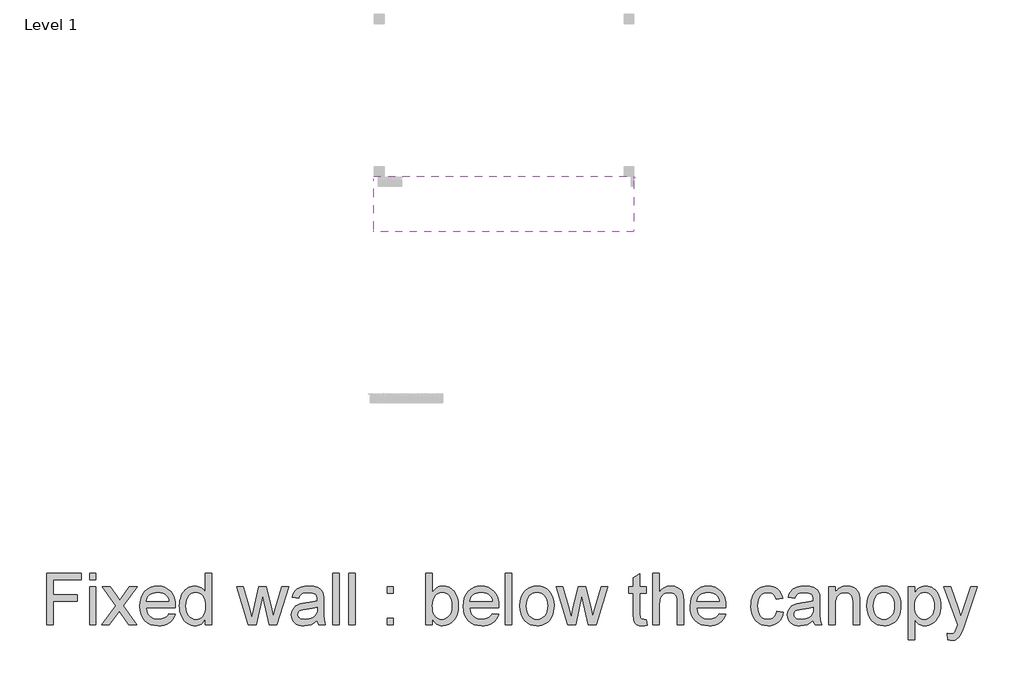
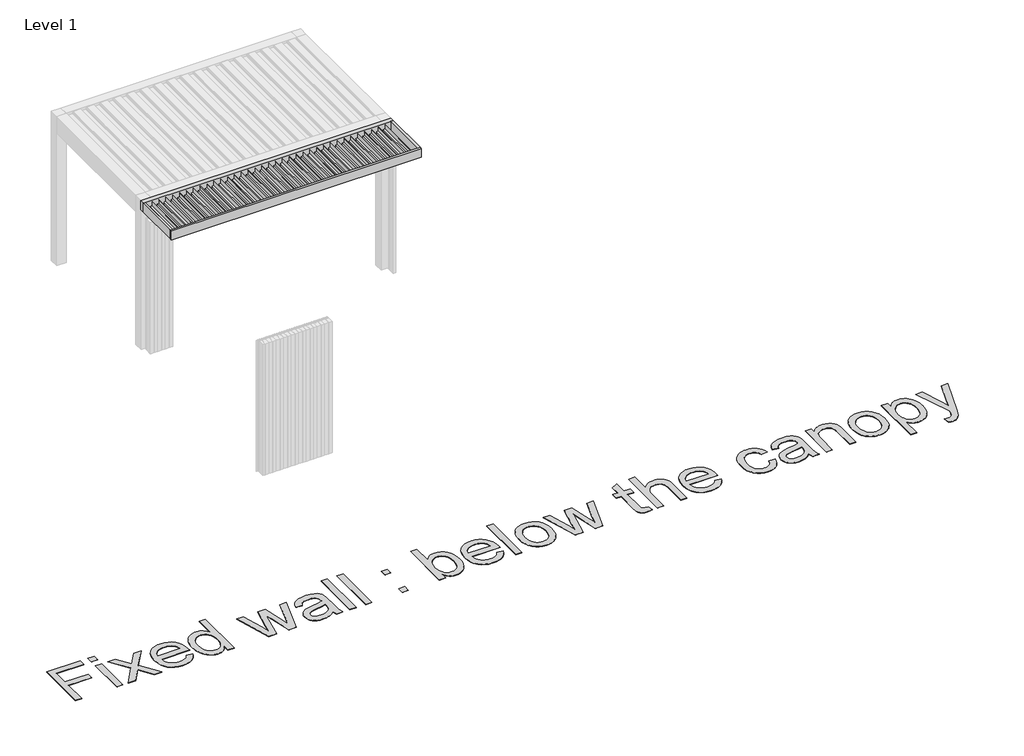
# One storey, part 34 of 80: 2 proxies.
"""IFC4 building model written with IfcOpenShell, lengths in millimetres."""

from ifc_helpers import new_model, si_unit, origin, origin_with_axes, place, context, project, spatial, polyline, outline, extrude, transform, mapped, element, save
from components import generic_models_03fcded6

model = new_model("IFC4")

# Units and contexts
model_context = context("Model", 3, world=origin())
ifc_project = project(units=[si_unit("LENGTHUNIT", "METRE", prefix="MILLI")], contexts=[model_context])

# Site, building, storey
site = spatial("IfcSite", under=ifc_project)
building = spatial("IfcBuilding", under=site)
storey = spatial("IfcBuildingStorey", under=building, Name="Level 1", Elevation=0.0)

# Proxies
placement = place(None, origin())
generic_models_shape = generic_models_03fcded6(model_context)
element("IfcBuildingElementProxy", 1, Name="Renson_Amani_Canopy : Renson_Amani_Canopy", ObjectType="Renson_Amani_Canopy : Renson_Amani_Canopy", at=placement, inside=storey, context=model_context, shape_type="MappedRepresentation", body=[
    mapped(generic_models_shape, transform((401963.7188353, -18477.8406315, 2535.0), x_axis=(1.0, 0.0, 0.0), y_axis=(0.0, 1.0, 0.0), z_axis=(0.0, 0.0, 1.0))),
])
element("IfcBuildingElementProxy", 2, Name="800mm Arial", ObjectType="800mm Arial", at=placement, inside=storey, context=model_context, shape_type="SweptSolid", body=[
    extrude(outline(polyline([(396925.0403254, -25390.2605409), (396925.0403254, -24590.8718426), (397462.1296071, -24590.8718426), (397462.1296071, -24690.7954299), (397024.9639126, -24690.7954299), (397024.9639126, -24928.1139497), (397399.677365, -24928.1139497), (397399.677365, -25028.037537), (397024.9639126, -25028.037537), (397024.9639126, -25390.2605409), (396925.0403254, -25390.2605409)])), origin_with_axes(), (0.0, 0.0, 1.0), 5.0),
    extrude(outline(polyline([(397587.0340912, -24690.7954299), (397587.0340912, -24590.8718426), (397686.9576785, -24590.8718426), (397686.9576785, -24690.7954299), (397587.0340912, -24690.7954299)])), origin_with_axes(), (0.0, 0.0, 1.0), 5.0),
    extrude(outline(polyline([(397587.0340912, -25390.2605409), (397587.0340912, -24803.2094656), (397686.9576785, -24803.2094656), (397686.9576785, -25390.2605409), (397587.0340912, -25390.2605409)])), origin_with_axes(), (0.0, 0.0, 1.0), 5.0),
    extrude(outline(polyline([(397774.3908173, -25390.2605409), (397987.8994199, -25095.1736972), (397786.8812658, -24803.2094656), (397907.1018317, -24803.2094656), (398004.0979702, -24943.7270102), (398049.3758457, -25010.0825174), (398088.6036602, -24955.8271321), (398199.0660633, -24803.2094656), (398319.2866293, -24803.2094656), (398108.1199858, -25095.1736972), (398311.480099, -25390.2605409), (398191.2595331, -25390.2605409), (398068.8921713, -25212.8571408), (398046.4483968, -25180.4600402), (397894.6113833, -25390.2605409), (397774.3908173, -25390.2605409)])), origin_with_axes(), (0.0, 0.0, 1.0), 5.0),
    extrude(outline(polyline([(398809.927056, -25215.3942631), (398907.8990107, -25227.8847116), (398892.8775388, -25267.1247238), (398872.5988567, -25301.7052133), (398847.0629644, -25331.6261801), (398816.2698618, -25356.8876241), (398780.5366893, -25376.9528464), (398740.1805872, -25391.285148), (398695.2015554, -25399.884529), (398645.5995941, -25402.7509893), (398583.598667, -25397.8048205), (398528.3552678, -25382.9663142), (398479.8693962, -25358.2354703), (398438.1410525, -25323.6122888), (398404.5851701, -25280.0603884), (398380.6166826, -25228.5433875), (398366.2355902, -25169.0612863), (398361.4418927, -25101.6140846), (398366.284381, -25031.8798136), (398380.8118459, -24970.4155855), (398405.0242874, -24917.2214004), (398420.7623744, -24893.725574), (398438.9217055, -24872.2972583), (398480.5402699, -24836.6067778), (398527.9161504, -24811.1135774), (398581.049347, -24795.8176572), (398639.9398596, -24790.7190172), (398696.9336293, -24795.8054595), (398748.4750256, -24811.0647866), (398794.5640484, -24836.4969985), (398835.2006977, -24872.1020951), (398868.3723524, -24916.9286555), (398892.0663915, -24970.025259), (398906.282815, -25031.3919054), (398911.0216228, -25101.0285949), (398910.436133, -25127.9611243), (398461.36548, -25127.9611243), (398467.1532903, -25167.8354171), (398478.6618236, -25202.7574423), (398495.8910798, -25232.7271999), (398518.841059, -25257.7446898), (398546.2432, -25277.4683764), (398576.8289416, -25291.556724), (398610.5982838, -25300.0097325), (398647.5512266, -25302.827402), (398700.733214, -25297.6067849), (398745.5231813, -25281.9449336), (398764.7711575, -25269.954591), (398781.9211287, -25254.8660318), (398796.9730948, -25236.6792558), (398809.927056, -25215.3942631)]), holes=[polyline([(398461.36548, -25028.037537), (398811.0980355, -25028.037537), (398805.9628023, -24999.7632602), (398797.58298, -24975.2458761), (398785.9585685, -24954.4853847), (398771.0895679, -24937.481786), (398743.8398983, -24916.9896441), (398712.8333359, -24902.3523998), (398678.0698808, -24893.5700533), (398639.5495331, -24890.6426044), (398604.4140481, -24892.9784647), (398572.1938142, -24899.9860453), (398542.8888315, -24911.6653465), (398516.4990999, -24928.0163681), (398494.3541692, -24948.2828525), (398477.7835889, -24971.7085421), (398466.7873592, -24998.2934369), (398461.36548, -25028.037537)])]), origin_with_axes(), (0.0, 0.0, 1.0), 5.0),
    extrude(outline(polyline([(399373.168214, -25390.2605409), (399373.168214, -25295.9966881), (399343.2716427, -25342.7016949), (399325.9539531, -25361.0500904), (399307.0566609, -25376.062414), (399286.5797661, -25387.7386657), (399264.5232687, -25396.0788455), (399240.8871687, -25401.0829534), (399215.6714661, -25402.7509893), (399182.6888758, -25400.335844), (399151.0724282, -25393.0904081), (399120.8221235, -25381.0146816), (399091.9379615, -25364.1086645), (399065.3225724, -25342.8785616), (399041.8785862, -25317.8305774), (399021.606003, -25288.964712), (399004.5048226, -25256.2809654), (398990.9287786, -25220.4014204), (398981.2316043, -25181.9481601), (398975.4132997, -25140.9211843), (398973.4738649, -25097.320493), (398975.2608284, -25054.5187513), (398980.6217191, -25013.7418284), (398989.556537, -24974.9897243), (399002.0652819, -24938.262439), (399018.1418552, -24904.6333704), (399037.7801579, -24875.1759164), (399060.98019, -24849.890077), (399087.7419515, -24828.7758522), (399117.1201204, -24812.1259868), (399148.1693748, -24800.2332259), (399180.8897145, -24793.0975693), (399215.2811396, -24790.7190172), (399240.4328042, -24792.4205968), (399264.1695353, -24797.5253357), (399286.4913328, -24806.0332339), (399307.3981966, -24817.9442914), (399344.040098, -24849.2435987), (399373.168214, -24888.6909719), (399373.168214, -24590.8718426), (399473.0918013, -24590.8718426), (399473.0918013, -25390.2605409), (399373.168214, -25390.2605409)]), holes=[polyline([(399073.3974522, -25096.9301665), (399076.2151217, -25145.3855438), (399084.6681302, -25187.3151496), (399098.7564778, -25222.7189841), (399118.4801644, -25251.5970472), (399142.0339299, -25274.0103274), (399167.6125142, -25290.0198133), (399195.2159173, -25299.6255049), (399224.8441391, -25302.827402), (399254.6126346, -25299.7718773), (399282.0513687, -25290.6053031), (399307.1603414, -25275.3276794), (399329.9395527, -25253.9390063), (399348.852092, -25226.2685158), (399362.3610487, -25192.1454402), (399370.4664227, -25151.5697794), (399373.168214, -25104.5415335), (399370.4176319, -25052.9818407), (399362.1658854, -25008.7651654), (399348.4129747, -24971.8915076), (399329.1588997, -24942.3608674), (399305.8795825, -24919.7341274), (399280.0509453, -24903.5721702), (399251.672988, -24893.8749959), (399220.7457108, -24890.6426044), (399190.5319991, -24893.74692), (399162.928596, -24903.0598666), (399137.9355015, -24918.5814444), (399115.5527155, -24940.3116532), (399097.1097878, -24968.7262036), (399083.936268, -25004.3008059), (399076.0321561, -25047.0354602), (399073.3974522, -25096.9301665)])]), origin_with_axes(), (0.0, 0.0, 1.0), 5.0),
    extrude(outline(polyline([(400032.6248575, -25390.2605409), (399854.0504779, -24803.2094656), (399957.8773303, -24803.2094656), (400059.1670604, -25145.7209806), (400089.4173651, -25268.0883424), (400114.2030987, -25150.2097355), (400194.8055236, -24803.2094656), (400313.85511, -24803.2094656), (400394.0672084, -25149.2339192), (400416.1206564, -25255.9882205), (400447.7371039, -25143.3790215), (400549.2219973, -24803.2094656), (400653.4391762, -24803.2094656), (400473.4986538, -25390.2605409), (400352.6925981, -25390.2605409), (400275.9934383, -25045.9925566), (400253.744827, -24938.6527655), (400154.797056, -25390.2605409), (400032.6248575, -25390.2605409)])), origin_with_axes(), (0.0, 0.0, 1.0), 5.0),
    extrude(outline(polyline([(401096.8500948, -25315.3178504), (401049.1082832, -25356.2533435), (401024.7067773, -25371.415089), (400999.951538, -25383.0395004), (400948.2576705, -25397.8231171), (400892.9044919, -25402.7509893), (400848.4133682, -25399.7869474), (400809.3990135, -25390.8948215), (400775.8614277, -25376.0746117), (400747.8006107, -25355.326318), (400725.6434822, -25329.9672924), (400709.8169619, -25301.3148868), (400700.3210497, -25269.3691013), (400697.1557457, -25234.1299358), (400701.9372454, -25192.7065346), (400716.2817448, -25155.0888169), (400738.408379, -25122.8868796), (400766.5362833, -25097.7108195), (400799.5920599, -25078.682402), (400836.5023107, -25064.9233924), (400922.9596333, -25049.8958217), (401025.1275981, -25034.0875979), (401096.2646051, -25015.5470886), (401096.8500948, -24993.2984773), (401095.1302186, -24969.0738381), (401089.97059, -24948.7036732), (401081.3712091, -24932.1879827), (401069.3320757, -24919.5267664), (401048.5227935, -24906.8899455), (401023.1759655, -24897.8636449), (400993.2915919, -24892.4478646), (400958.8696725, -24890.6426044), (400899.3448793, -24895.4484996), (400876.3156151, -24901.4558686), (400857.7751057, -24909.8661852), (400842.540174, -24921.3381254), (400829.4276427, -24936.5303651), (400818.4375118, -24955.4429044), (400809.5697814, -24978.0757433), (400709.6461941, -24965.5852949), (400726.9913285, -24910.9395831), (400738.8657929, -24888.0079005), (400752.8748554, -24868.0036667), (400769.6223023, -24850.5243575), (400789.71192, -24835.1674488), (400813.1437085, -24821.9329405), (400839.9176677, -24810.8208326), (400901.3209073, -24795.744471), (400971.7504475, -24790.7190172), (401039.3013296, -24795.1589812), (401092.8492481, -24808.4788735), (401133.2236467, -24828.5075027), (401161.2539695, -24853.0736776), (401179.8432696, -24883.4459594), (401191.8946007, -24920.8929092), (401195.5539118, -24955.4368056), (401196.7736821, -25008.3260481), (401196.7736821, -25132.6450424), (401198.0422433, -25240.9362543), (401201.8479268, -25306.242759), (401209.3617122, -25349.15428), (401221.7545789, -25390.2605409), (401121.8309917, -25390.2605409), (401105.8276046, -25355.5214813), (401096.8500948, -25315.3178504)]), holes=[polyline([(401096.8500948, -25115.4706759), (401029.7139346, -25132.1083435), (400935.645245, -25146.1113071), (400883.805005, -25153.7714649), (400849.6758306, -25162.3098574), (400827.3052423, -25173.3853722), (400810.7407609, -25188.656897), (400800.4946899, -25206.9534523), (400797.079333, -25227.1040585), (400798.9394827, -25242.6317351), (400804.5199321, -25256.8176643), (400813.820681, -25269.6618461), (400826.8417296, -25281.1642806), (400843.4611006, -25290.6418962), (400863.5568172, -25297.4116217), (400914.1772868, -25302.827402), (400967.8471823, -25296.8505273), (400992.340171, -25289.3794339), (401015.2718536, -25278.9199031), (401053.7190152, -25252.4996773), (401080.4563813, -25221.0539976), (401092.3125491, -25188.656897), (401096.2646051, -25143.769348), (401096.8500948, -25115.4706759)])]), origin_with_axes(), (0.0, 0.0, 1.0), 5.0),
    extrude(outline(polyline([(401334.1686146, -25390.2605409), (401334.1686146, -24590.8718426), (401434.0922019, -24590.8718426), (401434.0922019, -25390.2605409), (401334.1686146, -25390.2605409)])), origin_with_axes(), (0.0, 0.0, 1.0), 5.0),
    extrude(outline(polyline([(401583.9775829, -25390.2605409), (401583.9775829, -24590.8718426), (401683.9011702, -24590.8718426), (401683.9011702, -25390.2605409), (401583.9775829, -25390.2605409)])), origin_with_axes(), (0.0, 0.0, 1.0), 5.0),
    extrude(outline(polyline([(402171.0286582, -24903.1330529), (402171.0286582, -24803.2094656), (402270.9522455, -24803.2094656), (402270.9522455, -24903.1330529), (402171.0286582, -24903.1330529)])), origin_with_axes(), (0.0, 0.0, 1.0), 5.0),
    extrude(outline(polyline([(402171.0286582, -25390.2605409), (402171.0286582, -25290.3369536), (402270.9522455, -25290.3369536), (402270.9522455, -25390.2605409), (402171.0286582, -25390.2605409)])), origin_with_axes(), (0.0, 0.0, 1.0), 5.0),
    extrude(outline(polyline([(402870.4937693, -25390.2605409), (402770.570182, -25390.2605409), (402770.570182, -24590.8718426), (402870.4937693, -24590.8718426), (402870.4937693, -24887.3248291), (402903.3543826, -24845.0597864), (402940.4597967, -24814.8704701), (402960.6043041, -24804.3042095), (402981.8100117, -24796.7568804), (403027.4050274, -24790.7190172), (403078.8793363, -24796.1591929), (403127.523778, -24812.4797202), (403170.557276, -24838.655992), (403205.1987541, -24873.6634011), (403232.3508421, -24917.1604119), (403252.9161703, -24968.8054886), (403265.8701314, -25026.4518355), (403270.1881184, -25087.9526567), (403265.7176601, -25158.9188958), (403252.3062851, -25221.3467425), (403229.9539934, -25275.2361966), (403198.660785, -25320.5872584), (403161.097957, -25356.5338907), (403119.9368064, -25382.2100566), (403075.1773333, -25397.6157561), (403026.8195377, -25402.7509893), (403002.6040467, -25401.0951511), (402979.7242044, -25396.1276363), (402958.1800105, -25387.848445), (402937.9714652, -25376.2575773), (402919.0985684, -25361.355033), (402901.5613202, -25343.1408122), (402870.4937693, -25296.7773411), (402870.4937693, -25390.2605409)]), holes=[polyline([(402870.4937693, -25092.6365749), (402872.2014478, -25137.6704963), (402877.3244832, -25175.9712853), (402885.8628757, -25207.5389421), (402897.8166252, -25232.3734665), (402922.0290667, -25263.1970633), (402950.1691687, -25285.2139181), (402982.2369313, -25298.4240311), (403018.2323544, -25302.827402), (403048.116728, -25299.5828129), (403075.9030967, -25289.8490455), (403101.5914603, -25273.6260998), (403125.1818189, -25250.9139758), (403144.9055055, -25221.7736621), (403158.9938531, -25186.2661471), (403167.4468616, -25144.3914309), (403170.2645312, -25096.1495135), (403167.5627398, -25046.9927683), (403159.4573658, -25004.7155278), (403145.9484092, -24969.3177922), (403127.0358699, -24940.7995613), (403104.2932516, -24918.8558927), (403079.2940582, -24903.1818437), (403052.0382897, -24893.7774143), (403022.525946, -24890.6426044), (402992.6415724, -24893.8871936), (402964.8552038, -24903.620961), (402939.1668401, -24919.8439067), (402915.5764815, -24942.5560307), (402895.8527949, -24971.4035995), (402881.7644473, -25006.0328798), (402873.3114388, -25046.4438716), (402870.4937693, -25092.6365749)])]), origin_with_axes(), (0.0, 0.0, 1.0), 5.0),
    extrude(outline(polyline([(403793.6159722, -25215.3942631), (403891.5879269, -25227.8847116), (403876.566455, -25267.1247238), (403856.2877729, -25301.7052133), (403830.7518806, -25331.6261801), (403799.958778, -25356.8876241), (403764.2256055, -25376.9528464), (403723.8695034, -25391.285148), (403678.8904717, -25399.884529), (403629.2885103, -25402.7509893), (403567.2875833, -25397.8048205), (403512.044184, -25382.9663142), (403463.5583125, -25358.2354703), (403421.8299687, -25323.6122888), (403388.2740863, -25280.0603884), (403364.3055989, -25228.5433875), (403349.9245064, -25169.0612863), (403345.1308089, -25101.6140846), (403349.9732972, -25031.8798136), (403364.5007621, -24970.4155855), (403388.7132036, -24917.2214004), (403404.4512906, -24893.725574), (403422.6106217, -24872.2972583), (403464.2291862, -24836.6067778), (403511.6050667, -24811.1135774), (403564.7382632, -24795.8176572), (403623.6287758, -24790.7190172), (403680.6225456, -24795.8054595), (403732.1639418, -24811.0647866), (403778.2529646, -24836.4969985), (403818.8896139, -24872.1020951), (403852.0612686, -24916.9286555), (403875.7553077, -24970.025259), (403889.9717312, -25031.3919054), (403894.710539, -25101.0285949), (403894.1250493, -25127.9611243), (403445.0543962, -25127.9611243), (403450.8422065, -25167.8354171), (403462.3507398, -25202.7574423), (403479.579996, -25232.7271999), (403502.5299752, -25257.7446898), (403529.9321162, -25277.4683764), (403560.5178578, -25291.556724), (403594.2872, -25300.0097325), (403631.2401428, -25302.827402), (403684.4221302, -25297.6067849), (403729.2120976, -25281.9449336), (403748.4600737, -25269.954591), (403765.6100449, -25254.8660318), (403780.662011, -25236.6792558), (403793.6159722, -25215.3942631)]), holes=[polyline([(403445.0543962, -25028.037537), (403794.7869517, -25028.037537), (403789.6517185, -24999.7632602), (403781.2718962, -24975.2458761), (403769.6474848, -24954.4853847), (403754.7784842, -24937.481786), (403727.5288145, -24916.9896441), (403696.5222521, -24902.3523998), (403661.7587971, -24893.5700533), (403623.2384493, -24890.6426044), (403588.1029643, -24892.9784647), (403555.8827305, -24899.9860453), (403526.5777477, -24911.6653465), (403500.1880161, -24928.0163681), (403478.0430854, -24948.2828525), (403461.4725052, -24971.7085421), (403450.4762754, -24998.2934369), (403445.0543962, -25028.037537)])]), origin_with_axes(), (0.0, 0.0, 1.0), 5.0),
    extrude(outline(polyline([(403994.6341263, -25390.2605409), (403994.6341263, -24590.8718426), (404094.5577136, -24590.8718426), (404094.5577136, -25390.2605409), (403994.6341263, -25390.2605409)])), origin_with_axes(), (0.0, 0.0, 1.0), 5.0),
    extrude(outline(polyline([(404219.4621977, -25096.7350032), (404224.8657804, -25020.7067172), (404231.6202587, -24986.6354818), (404241.0765284, -24955.1928515), (404253.2345894, -24926.3788264), (404268.0944417, -24900.1934063), (404285.6560853, -24876.6365914), (404305.9195203, -24855.7083815), (404344.0007507, -24827.2755346), (404386.0340371, -24806.9663582), (404432.0193794, -24794.7808524), (404481.9567776, -24790.7190172), (404537.0842987, -24795.6651859), (404586.9302142, -24810.5036923), (404631.494524, -24835.2345362), (404670.7772282, -24869.8577176), (404702.8388919, -24913.2022571), (404725.7400803, -24964.0971751), (404739.4807933, -25022.5424715), (404744.061031, -25088.5381465), (404742.0362122, -25142.0250764), (404735.9617559, -25189.4863409), (404725.8376619, -25230.9219397), (404711.6639304, -25266.3318731), (404693.6174281, -25296.9176147), (404671.8750215, -25323.8806383), (404646.4367108, -25347.220944), (404617.302496, -25366.9385318), (404585.6067633, -25382.6064819), (404552.4838994, -25393.7978749), (404517.9339042, -25400.5127107), (404481.9567776, -25402.7509893), (404426.0242081, -25397.8231171), (404375.7147799, -25383.0395004), (404331.028493, -25358.4001393), (404291.9653475, -25323.9050337), (404260.2452195, -25280.1396735), (404237.5879852, -25227.6895483), (404223.9936446, -25166.5546582), (404219.4621977, -25096.7350032)]), holes=[polyline([(404319.385785, -25096.53984), (404322.2766408, -25145.0074149), (404330.949208, -25186.9736139), (404345.4034866, -25222.4384369), (404365.6394768, -25251.401884), (404390.2544425, -25273.9005481), (404417.8456479, -25289.9710225), (404448.4130929, -25299.6133071), (404481.9567776, -25302.827402), (404515.3296945, -25299.5950106), (404545.7751625, -25289.8978363), (404573.2931816, -25273.7358791), (404597.8837519, -25251.1091391), (404618.1197421, -25221.859046), (404632.5740208, -25185.8270298), (404641.246588, -25143.0130904), (404644.1374437, -25093.4172279), (404641.2282914, -25046.4865636), (404632.5008346, -25005.6181579), (404617.9550731, -24970.8120109), (404597.5910071, -24942.0681225), (404572.908954, -24919.5694584), (404545.4092314, -24903.498984), (404515.0918393, -24893.8566993), (404481.9567776, -24890.6426044), (404448.4130929, -24893.8445016), (404417.8456479, -24903.4501931), (404390.2544425, -24919.459679), (404365.6394768, -24941.8729593), (404345.4034866, -24970.7510224), (404330.949208, -25006.1548568), (404322.2766408, -25048.0844627), (404319.385785, -25096.53984)])]), origin_with_axes(), (0.0, 0.0, 1.0), 5.0),
    extrude(outline(polyline([(404953.8615317, -25390.2605409), (404775.287152, -24803.2094656), (404879.1140045, -24803.2094656), (404980.4037346, -25145.7209806), (405010.6540393, -25268.0883424), (405035.4397729, -25150.2097355), (405116.0421978, -24803.2094656), (405235.0917842, -24803.2094656), (405315.3038826, -25149.2339192), (405337.3573306, -25255.9882205), (405368.9737781, -25143.3790215), (405470.4586715, -24803.2094656), (405574.6758504, -24803.2094656), (405394.735328, -25390.2605409), (405273.9292722, -25390.2605409), (405197.2301124, -25045.9925566), (405174.9815012, -24938.6527655), (405076.0337302, -25390.2605409), (404953.8615317, -25390.2605409)])), origin_with_axes(), (0.0, 0.0, 1.0), 5.0),
    extrude(outline(polyline([(406167.9721499, -25306.9258304), (406180.4625983, -25393.1879898), (406140.8932481, -25400.3602394), (406105.7150711, -25402.7509893), (406057.7537009, -25398.6037701), (406021.9900341, -25386.1621125), (405996.7163924, -25366.9873226), (405980.2250972, -25342.6407063), (405971.1500058, -25300.8269786), (405968.1249754, -25229.2508544), (405968.1249754, -24903.1330529), (405893.1822849, -24903.1330529), (405893.1822849, -24803.2094656), (405968.1249754, -24803.2094656), (405968.1249754, -24660.5451251), (406068.0485626, -24601.8009849), (406068.0485626, -24803.2094656), (406167.9721499, -24803.2094656), (406167.9721499, -24903.1330529), (406068.0485626, -24903.1330529), (406068.0485626, -25226.3234055), (406069.3659146, -25259.2084142), (406073.3179706, -25277.8465052), (406080.2218708, -25288.1657624), (406090.3947555, -25296.0942697), (406104.8124411, -25301.1441189), (406124.4507438, -25302.827402), (406167.9721499, -25306.9258304)])), origin_with_axes(), (0.0, 0.0, 1.0), 5.0),
    extrude(outline(polyline([(406267.8957372, -25390.2605409), (406267.8957372, -24590.8718426), (406367.8193245, -24590.8718426), (406367.8193245, -24884.7877068), (406404.5222144, -24843.6326551), (406445.7382547, -24814.2361896), (406491.4674452, -24796.5983103), (406541.709786, -24790.7190172), (406572.9481047, -24792.3230152), (406602.0640231, -24797.1350092), (406629.057541, -24805.1549993), (406653.9286584, -24816.3829854), (406676.0430949, -24830.4408387), (406694.7665699, -24846.9504304), (406710.0990832, -24865.9117605), (406722.0406349, -24887.3248291), (406731.005947, -24912.5130869), (406737.4097414, -24942.7999847), (406742.5327769, -25018.6697007), (406742.5327769, -25390.2605409), (406642.6091896, -25390.2605409), (406642.6091896, -25029.0133533), (406640.6209639, -24995.2745053), (406634.6562869, -24966.4635296), (406624.7151585, -24942.5804261), (406610.7975788, -24923.6251948), (406593.2328857, -24909.1953115), (406572.3504173, -24898.888252), (406548.1501735, -24892.7040163), (406520.6321543, -24890.6426044), (406478.4037047, -24896.2047573), (406438.7611682, -24912.8912157), (406420.9647188, -24925.0035353), (406405.9249503, -24939.0918829), (406393.6418629, -24955.1562584), (406384.1154564, -24973.1966619), (406371.8933575, -25018.5233282), (406367.8193245, -25078.3896571), (406367.8193245, -25390.2605409), (406267.8957372, -25390.2605409)])), origin_with_axes(), (0.0, 0.0, 1.0), 5.0),
    extrude(outline(polyline([(407290.9415274, -25215.3942631), (407388.9134822, -25227.8847116), (407373.8920103, -25267.1247238), (407353.6133282, -25301.7052133), (407328.0774358, -25331.6261801), (407297.2843333, -25356.8876241), (407261.5511608, -25376.9528464), (407221.1950587, -25391.285148), (407176.2160269, -25399.884529), (407126.6140655, -25402.7509893), (407064.6131385, -25397.8048205), (407009.3697392, -25382.9663142), (406960.8838677, -25358.2354703), (406919.1555239, -25323.6122888), (406885.5996415, -25280.0603884), (406861.6311541, -25228.5433875), (406847.2500616, -25169.0612863), (406842.4563642, -25101.6140846), (406847.2988525, -25031.8798136), (406861.8263174, -24970.4155855), (406886.0387589, -24917.2214004), (406901.7768458, -24893.725574), (406919.936177, -24872.2972583), (406961.5547414, -24836.6067778), (407008.9306219, -24811.1135774), (407062.0638185, -24795.8176572), (407120.9543311, -24790.7190172), (407177.9481008, -24795.8054595), (407229.4894971, -24811.0647866), (407275.5785198, -24836.4969985), (407316.2151691, -24872.1020951), (407349.3868239, -24916.9286555), (407373.080863, -24970.025259), (407387.2972865, -25031.3919054), (407392.0360943, -25101.0285949), (407391.4506045, -25127.9611243), (406942.3799515, -25127.9611243), (406948.1677618, -25167.8354171), (406959.6762951, -25202.7574423), (406976.9055513, -25232.7271999), (406999.8555305, -25257.7446898), (407027.2576714, -25277.4683764), (407057.843413, -25291.556724), (407091.6127553, -25300.0097325), (407128.5656981, -25302.827402), (407181.7476855, -25297.6067849), (407226.5376528, -25281.9449336), (407245.785629, -25269.954591), (407262.9356001, -25254.8660318), (407277.9875663, -25236.6792558), (407290.9415274, -25215.3942631)]), holes=[polyline([(406942.3799515, -25028.037537), (407292.112507, -25028.037537), (407286.9772738, -24999.7632602), (407278.5974515, -24975.2458761), (407266.97304, -24954.4853847), (407252.1040394, -24937.481786), (407224.8543697, -24916.9896441), (407193.8478074, -24902.3523998), (407159.0843523, -24893.5700533), (407120.5640046, -24890.6426044), (407085.4285196, -24892.9784647), (407053.2082857, -24899.9860453), (407023.903303, -24911.6653465), (406997.5135714, -24928.0163681), (406975.3686406, -24948.2828525), (406958.7980604, -24971.7085421), (406947.8018307, -24998.2934369), (406942.3799515, -25028.037537)])]), origin_with_axes(), (0.0, 0.0, 1.0), 5.0),
    extrude(outline(polyline([(408178.9343442, -25177.9229179), (408278.8579315, -25190.4133663), (408267.9897777, -25237.5635893), (408250.9983766, -25279.2858342), (408227.8837285, -25315.5801011), (408198.6458331, -25346.4463898), (408164.5166586, -25371.0796521), (408126.7281731, -25388.6748394), (408085.2803765, -25399.2319519), (408040.1732689, -25402.7509893), (407984.13092, -25397.8414137), (407933.8824803, -25383.1126866), (407889.4279498, -25358.5648083), (407850.7673285, -25324.1977786), (407819.4741201, -25280.6580759), (407797.1218284, -25228.5921784), (407783.7104534, -25168.0000861), (407779.239995, -25098.8817991), (407781.1489356, -25052.9391487), (407786.8757574, -25009.9605403), (407796.4204604, -24969.9459739), (407809.7830447, -24932.8954495), (407827.0549929, -24899.5530269), (407848.3277878, -24870.6627661), (407873.6014295, -24846.2246671), (407902.875918, -24826.2387298), (407934.8278024, -24810.6988555), (407968.1336318, -24799.5989453), (408002.7934064, -24792.9389992), (408038.8071261, -24790.7190172), (408083.1396796, -24793.768443), (408123.2396299, -24802.9167207), (408159.1069771, -24818.1638501), (408190.7417212, -24839.5098313), (408217.6071632, -24866.4667561), (408239.1666042, -24898.5467163), (408255.4200442, -24935.7497121), (408266.3674831, -24978.0757433), (408166.4438958, -24990.5661917), (408158.6434644, -24967.225886), (408148.3181083, -24946.9715993), (408135.4678277, -24929.8033316), (408120.0926224, -24915.7210829), (408102.582819, -24904.7492486), (408083.328744, -24896.9122241), (408062.3303973, -24892.2100093), (408039.5877791, -24890.6426044), (408005.6354713, -24893.7286234), (407975.0131366, -24902.9866804), (407947.720775, -24918.4167754), (407923.7583864, -24940.0189083), (407904.2481596, -24968.2931851), (407890.3122833, -25003.7397115), (407881.9507576, -25046.3584877), (407879.1635823, -25096.1495135), (407881.8897691, -25146.690698), (407890.0683293, -25189.8034811), (407903.699263, -25225.4878628), (407922.7825701, -25253.743843), (407946.2692483, -25275.2179001), (407973.1102949, -25290.5565123), (408003.30571, -25299.7596796), (408036.8554935, -25302.827402), (408063.8917034, -25300.9123626), (408088.5981519, -25295.1672442), (408110.974839, -25285.5920469), (408131.0217647, -25272.1867708), (408148.1778348, -25254.8050432), (408161.8819547, -25233.3004919), (408172.1341245, -25207.6731168), (408178.9343442, -25177.9229179)])), origin_with_axes(), (0.0, 0.0, 1.0), 5.0),
    extrude(outline(polyline([(408741.0045227, -25315.3178504), (408693.2627111, -25356.2533435), (408668.8612052, -25371.415089), (408644.1059659, -25383.0395004), (408592.4120984, -25397.8231171), (408537.0589198, -25402.7509893), (408492.5677961, -25399.7869474), (408453.5534414, -25390.8948215), (408420.0158556, -25376.0746117), (408391.9550386, -25355.326318), (408369.7979101, -25329.9672924), (408353.9713898, -25301.3148868), (408344.4754776, -25269.3691013), (408341.3101736, -25234.1299358), (408346.0916733, -25192.7065346), (408360.4361727, -25155.0888169), (408382.5628069, -25122.8868796), (408410.6907112, -25097.7108195), (408443.7464878, -25078.682402), (408480.6567386, -25064.9233924), (408567.1140612, -25049.8958217), (408669.282026, -25034.0875979), (408740.419033, -25015.5470886), (408741.0045227, -24993.2984773), (408739.2846465, -24969.0738381), (408734.1250179, -24948.7036732), (408725.5256369, -24932.1879827), (408713.4865036, -24919.5267664), (408692.6772214, -24906.8899455), (408667.3303934, -24897.8636449), (408637.4460198, -24892.4478646), (408603.0241004, -24890.6426044), (408543.4993072, -24895.4484996), (408520.470043, -24901.4558686), (408501.9295336, -24909.8661852), (408486.6946019, -24921.3381254), (408473.5820706, -24936.5303651), (408462.5919397, -24955.4429044), (408453.7242093, -24978.0757433), (408353.800622, -24965.5852949), (408371.1457564, -24910.9395831), (408383.0202208, -24888.0079005), (408397.0292833, -24868.0036667), (408413.7767302, -24850.5243575), (408433.8663479, -24835.1674488), (408457.2981364, -24821.9329405), (408484.0720956, -24810.8208326), (408545.4753352, -24795.744471), (408615.9048754, -24790.7190172), (408683.4557575, -24795.1589812), (408737.003676, -24808.4788735), (408777.3780746, -24828.5075027), (408805.4083973, -24853.0736776), (408823.9976975, -24883.4459594), (408836.0490286, -24920.8929092), (408839.7083397, -24955.4368056), (408840.92811, -25008.3260481), (408840.92811, -25132.6450424), (408842.1966712, -25240.9362543), (408846.0023547, -25306.242759), (408853.5161401, -25349.15428), (408865.9090068, -25390.2605409), (408765.9854195, -25390.2605409), (408749.9820325, -25355.5214813), (408741.0045227, -25315.3178504)]), holes=[polyline([(408741.0045227, -25115.4706759), (408673.8683625, -25132.1083435), (408579.7996729, -25146.1113071), (408527.9594329, -25153.7714649), (408493.8302585, -25162.3098574), (408471.4596702, -25173.3853722), (408454.8951888, -25188.656897), (408444.6491178, -25206.9534523), (408441.2337608, -25227.1040585), (408443.0939106, -25242.6317351), (408448.67436, -25256.8176643), (408457.9751089, -25269.6618461), (408470.9961575, -25281.1642806), (408487.6155285, -25290.6418962), (408507.7112451, -25297.4116217), (408558.3317147, -25302.827402), (408612.0016102, -25296.8505273), (408636.4945989, -25289.3794339), (408659.4262815, -25278.9199031), (408697.8734431, -25252.4996773), (408724.6108092, -25221.0539976), (408736.466977, -25188.656897), (408740.419033, -25143.769348), (408741.0045227, -25115.4706759)])]), origin_with_axes(), (0.0, 0.0, 1.0), 5.0),
    extrude(outline(polyline([(408978.3230425, -25390.2605409), (408978.3230425, -24803.2094656), (409078.2466298, -24803.2094656), (409078.2466298, -24885.1780333), (409094.7318262, -24863.0392014), (409112.9612941, -24843.8522137), (409132.9350336, -24827.6170703), (409154.6530447, -24814.3337712), (409178.1153275, -24804.0023163), (409203.3218818, -24796.6227057), (409258.9678053, -24790.7190172), (409308.2221321, -24795.4761215), (409353.3292398, -24809.7474347), (409390.9469575, -24831.7520918), (409417.7331144, -24859.7092283), (409435.9076927, -24893.5456579), (409447.6906743, -24933.1881943), (409451.6427302, -24971.0986569), (409452.9600822, -25029.7940063), (409452.9600822, -25390.2605409), (409353.0364949, -25390.2605409), (409353.0364949, -25043.260271), (409350.1578369, -24991.5907988), (409341.5218628, -24954.8513158), (409325.591662, -24928.5286716), (409300.8303238, -24908.1097159), (409269.0918992, -24895.0093823), (409232.2304392, -24890.6426044), (409201.8886516, -24893.0943429), (409173.7058576, -24900.4495581), (409147.6820572, -24912.7082501), (409123.8172502, -24929.870419), (409103.8801038, -24953.8876972), (409089.6392849, -24986.7117174), (409081.0947936, -25028.3424796), (409078.2466298, -25078.7799836), (409078.2466298, -25390.2605409), (408978.3230425, -25390.2605409)])), origin_with_axes(), (0.0, 0.0, 1.0), 5.0),
    extrude(outline(polyline([(409565.3741179, -25096.7350032), (409570.7777006, -25020.7067172), (409577.5321789, -24986.6354818), (409586.9884485, -24955.1928515), (409599.1465095, -24926.3788264), (409614.0063619, -24900.1934063), (409631.5680055, -24876.6365914), (409651.8314405, -24855.7083815), (409689.9126709, -24827.2755346), (409731.9459573, -24806.9663582), (409777.9312995, -24794.7808524), (409827.8686978, -24790.7190172), (409882.9962189, -24795.6651859), (409932.8421343, -24810.5036923), (409977.4064442, -24835.2345362), (410016.6891484, -24869.8577176), (410048.7508121, -24913.2022571), (410071.6520005, -24964.0971751), (410085.3927135, -25022.5424715), (410089.9729512, -25088.5381465), (410087.9481324, -25142.0250764), (410081.873676, -25189.4863409), (410071.7495821, -25230.9219397), (410057.5758506, -25266.3318731), (410039.5293482, -25296.9176147), (410017.7869417, -25323.8806383), (409992.348631, -25347.220944), (409963.2144161, -25366.9385318), (409931.5186835, -25382.6064819), (409898.3958196, -25393.7978749), (409863.8458243, -25400.5127107), (409827.8686978, -25402.7509893), (409771.9361283, -25397.8231171), (409721.6267001, -25383.0395004), (409676.9404132, -25358.4001393), (409637.8772677, -25323.9050337), (409606.1571396, -25280.1396735), (409583.4999053, -25227.6895483), (409569.9055647, -25166.5546582), (409565.3741179, -25096.7350032)]), holes=[polyline([(409665.2977052, -25096.53984), (409668.1885609, -25145.0074149), (409676.8611281, -25186.9736139), (409691.3154068, -25222.4384369), (409711.551397, -25251.401884), (409736.1663627, -25273.9005481), (409763.7575681, -25289.9710225), (409794.3250131, -25299.6133071), (409827.8686978, -25302.827402), (409861.2416146, -25299.5950106), (409891.6870826, -25289.8978363), (409919.2051018, -25273.7358791), (409943.7956721, -25251.1091391), (409964.0316623, -25221.859046), (409978.4859409, -25185.8270298), (409987.1585081, -25143.0130904), (409990.0493639, -25093.4172279), (409987.1402116, -25046.4865636), (409978.4127547, -25005.6181579), (409963.8669933, -24970.8120109), (409943.5029272, -24942.0681225), (409918.8208741, -24919.5694584), (409891.3211515, -24903.498984), (409861.0037594, -24893.8566993), (409827.8686978, -24890.6426044), (409794.3250131, -24893.8445016), (409763.7575681, -24903.4501931), (409736.1663627, -24919.459679), (409711.551397, -24941.8729593), (409691.3154068, -24970.7510224), (409676.8611281, -25006.1548568), (409668.1885609, -25048.0844627), (409665.2977052, -25096.53984)])]), origin_with_axes(), (0.0, 0.0, 1.0), 5.0),
    extrude(outline(polyline([(410202.3869869, -25615.0886123), (410202.3869869, -24803.2094656), (410302.3105742, -24803.2094656), (410302.3105742, -24901.1814203), (410334.902838, -24852.8541189), (410352.6626943, -24833.8683934), (410371.398367, -24818.3346179), (410391.6465548, -24806.2527926), (410413.9439569, -24797.6229173), (410438.2905731, -24792.4449922), (410464.6864035, -24790.7190172), (410499.5352425, -24793.1341625), (410532.2616811, -24800.3795983), (410562.8657192, -24812.4553248), (410591.3473569, -24829.3613419), (410617.0845114, -24850.6585323), (410639.4550997, -24875.9077786), (410658.4591218, -24905.1090808), (410674.0965777, -24938.262439), (410686.3064789, -24974.2334667), (410695.0278369, -25011.8877775), (410700.2606517, -25051.2253714), (410702.0049233, -25092.2462483), (410700.0349942, -25136.1030914), (410694.1252069, -25177.7033592), (410684.2755613, -25217.047052), (410670.4860574, -25254.1341695), (410652.9457598, -25287.9949945), (410631.8437327, -25317.6598095), (410607.1799761, -25343.1286145), (410578.9544902, -25364.4014094), (410548.5517141, -25381.1793506), (410517.3560874, -25393.1635943), (410485.3676099, -25400.3541406), (410452.5862816, -25402.7509893), (410429.0020219, -25401.1469913), (410406.6497301, -25396.3349973), (410385.5294065, -25388.3150072), (410365.6410509, -25377.0870211), (410330.5360601, -25348.0320913), (410302.3105742, -25312.1952383), (410302.3105742, -25615.0886123), (410202.3869869, -25615.0886123)]), holes=[polyline([(410302.3105742, -25101.4189214), (410305.0123655, -25149.5754549), (410313.1177395, -25190.9988561), (410326.6266962, -25225.6891249), (410345.5392355, -25253.6462614), (410368.3062491, -25275.1630104), (410393.3786287, -25290.5321169), (410420.7563743, -25299.7535807), (410450.4394858, -25302.827402), (410480.549517, -25299.6438014), (410508.4273684, -25290.0929995), (410534.07304, -25274.1749964), (410557.486532, -25251.8897921), (410576.9967587, -25222.9202462), (410590.932635, -25186.9492185), (410599.2941608, -25143.976709), (410602.0813361, -25094.0027176), (410599.3612482, -25046.260906), (410591.2009845, -25004.9106911), (410577.6005451, -24969.9520728), (410558.5599299, -24941.3850511), (410535.7380266, -24919.1852307), (410510.7937229, -24903.3282161), (410483.7270187, -24893.8140074), (410454.5379142, -24890.6426044), (410425.4402924, -24894.0152695), (410398.0625469, -24904.1332645), (410372.4046775, -24920.9965897), (410348.4666843, -24944.6052448), (410328.2733861, -24974.6420898), (410313.8496017, -25010.7899842), (410305.1953311, -25053.0489281), (410302.3105742, -25101.4189214)])]), origin_with_axes(), (0.0, 0.0, 1.0), 5.0),
    extrude(outline(polyline([(410814.418959, -25615.0886123), (410801.9285106, -25518.8731269), (410829.1537849, -25525.4598868), (410852.6709573, -25527.6554734), (410879.3595326, -25524.8987924), (410900.0956286, -25516.6287494), (410916.2453881, -25503.4308342), (410929.1749538, -25485.8905366), (410956.4978097, -25412.3139889), (410964.30434, -25388.1137451), (410751.966717, -24803.2094656), (410857.3548755, -24803.2094656), (410969.9640744, -25129.1321038), (411009.191889, -25259.5011591), (411048.4197035, -25144.3548378), (411164.1515146, -24803.2094656), (411268.75902, -24803.2094656), (411064.4230905, -25404.3122954), (411034.0752042, -25484.2316489), (411011.3386848, -25534.6813507), (410984.1622013, -25576.2999151), (410953.3751976, -25605.1352862), (410936.286215, -25614.9544376), (410917.6115309, -25621.9681171), (410875.5050583, -25627.5790607), (410846.5721055, -25624.4564486), (410814.418959, -25615.0886123)])), origin_with_axes(), (0.0, 0.0, 1.0), 5.0),
])

save(model, "model.ifc")
